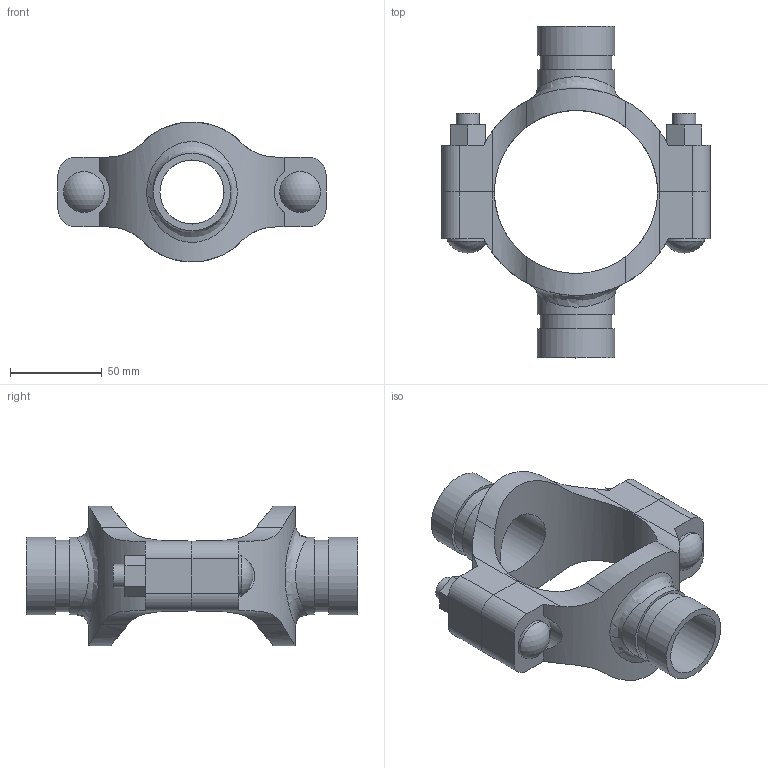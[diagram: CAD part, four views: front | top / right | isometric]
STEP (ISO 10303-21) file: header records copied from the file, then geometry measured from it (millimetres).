
FILE_DESCRIPTION(/* description */ ('VIC MECH-T BRANCH OUTLET CROSS STYLE 920N (GRVD)','CAx-IF Rec.Pracs.---Representation and Presentation of Product Manufacturing Information (PMI)---4.0---2014-10-13'),/* implementation_level */ '2;1');
FILE_NAME(/* name */ 'C:\Users\Vjadhav\AppData\Roaming\Autodesk\ApplicationPlugins\Back Up\Victaulic_IPS_Mechanical-Cross Outlet_Style 920N (OGS)\Victaulic_IPS_Mechanical-Cross Outlet_03.0x01.25x01.25 (80x32x32).stp',/* time_stamp */ '2020-08-06T19:43:22+05:00',/* author */ ('Vjadhav'),/* organization */ ('Victaulic'),/* preprocessor_version */ 'ST-DEVELOPER v17.2',/* originating_system */ 'Autodesk Inventor 2019',/* authorisation */ '');
FILE_SCHEMA (('AP242_MANAGED_MODEL_BASED_3D_ENGINEERING_MIM_LF { 1 0 10303 442 1 1 4 }'));
Length unit declared in the file: inch
Products named in the file (3): 920NG-03.0x01.25x01.25; 920NG-03.0x01.25; 920NG-03.0x01.25_1
Assembly tree (2 placements, depth 2):
  920NG-03.0x01.25x01.25
    920NG-03.0x01.25
    920NG-03.0x01.25_1
Bounding box: 146.05 x 180.85 x 76.18 mm (x, y, z)
Volume: 266005.5 mm3; surface area: 79429.7 mm2
Topology: 2 solids, 2 shells, 108 faces, 274 edges, 186 vertices
Faces by surface type: plane 54, cylinder 50, sphere 2, bspline 2
Full cylindrical faces by diameter (mm): 12.7 x4, 22.225 x2, 34.925 x2, 38.989 x2, 42.164 x4
Entity records: 4390 total; most frequent: CARTESIAN_POINT 1509, DIRECTION 552, ORIENTED_EDGE 548, EDGE_CURVE 274, AXIS2_PLACEMENT_3D 201, VERTEX_POINT 186, LINE 150, VECTOR 150
